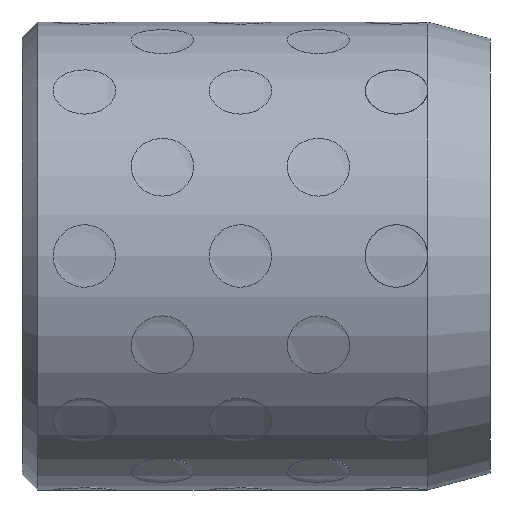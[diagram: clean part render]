
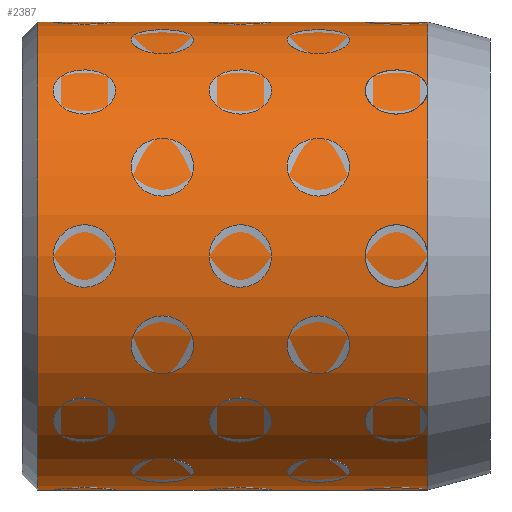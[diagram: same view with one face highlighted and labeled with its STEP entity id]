
A CAD part, left-side view. The second image highlights one B-rep face of the part: STEP entity #2387.
In plain terms, the highlighted cylindrical face has radius 15 mm (diameter 30 mm), a full revolution.
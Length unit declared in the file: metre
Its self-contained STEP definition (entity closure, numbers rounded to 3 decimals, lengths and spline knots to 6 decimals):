
#2387 = ADVANCED_FACE( '', ( #2553, #2554 ), #2555, .T. );
#2553 = FACE_OUTER_BOUND( '', #2913, .T. );
#2554 = FACE_OUTER_BOUND( '', #2914, .T. );
#2555 = CYLINDRICAL_SURFACE( '', #2915, 0.015 );
#2913 = EDGE_LOOP( '', ( #3285 ) );
#2914 = EDGE_LOOP( '', ( #3286 ) );
#2915 = AXIS2_PLACEMENT_3D( '', #3287, #3288, #3289 );
#3285 = ORIENTED_EDGE( '', *, *, #3926, .T. );
#3286 = ORIENTED_EDGE( '', *, *, #3925, .F. );
#3287 = CARTESIAN_POINT( '', ( 0., 0., 0. ) );
#3288 = DIRECTION( '', ( 0., 1., 0. ) );
#3289 = DIRECTION( '', ( 0., 0., -1. ) );
#3925 = EDGE_CURVE( '', #4035, #4035, #4036, .T. );
#3926 = EDGE_CURVE( '', #4037, #4037, #4038, .T. );
#4035 = VERTEX_POINT( '', #4243 );
#4036 = CIRCLE( '', #4244, 0.015 );
#4037 = VERTEX_POINT( '', #4245 );
#4038 = CIRCLE( '', #4246, 0.015 );
#4243 = CARTESIAN_POINT( '', ( 0., 0.004, -0.015 ) );
#4244 = AXIS2_PLACEMENT_3D( '', #9545, #9546, #9547 );
#4245 = CARTESIAN_POINT( '', ( 0., 0.029, -0.015 ) );
#4246 = AXIS2_PLACEMENT_3D( '', #9548, #9549, #9550 );
#9545 = CARTESIAN_POINT( '', ( 0., 0.004, 0. ) );
#9546 = DIRECTION( '', ( 0., -1., 0. ) );
#9547 = DIRECTION( '', ( 0., 0., -1. ) );
#9548 = CARTESIAN_POINT( '', ( 0., 0.029, 0. ) );
#9549 = DIRECTION( '', ( 0., -1., 0. ) );
#9550 = DIRECTION( '', ( 0., 0., -1. ) );
